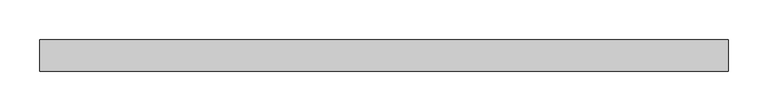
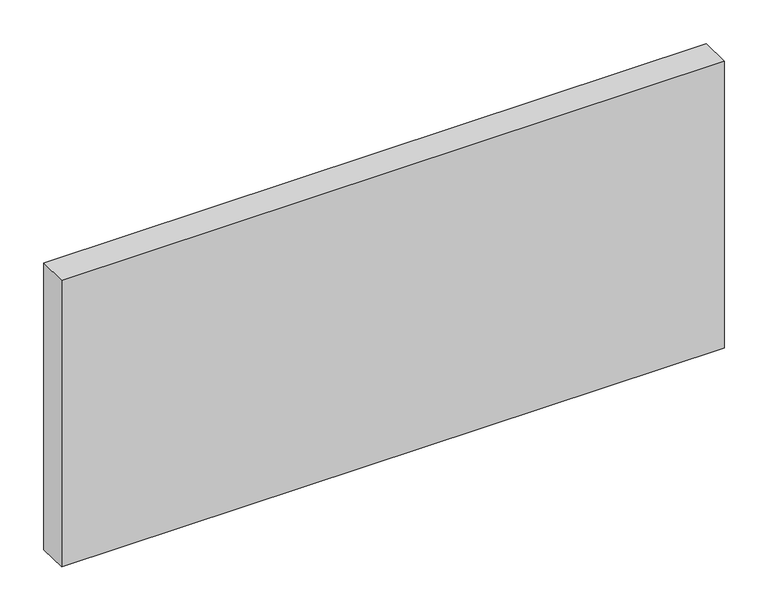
"""IFC4 building model written with IfcOpenShell, lengths in millimetres: plate geometry, Panneau système vide : Epaiss. 4cm."""

import ifcopenshell
import ifcopenshell.guid

model = None  # the IFC model being written
_history = None  # IfcOwnerHistory: only IFC2X3 demands one
_inside = {}  # id of a spatial element -> (the spatial element, [elements in it])
_under = {}  # id of a project, library or spatial element -> (it, [spatial elements below it])
_declared = {}  # id of a project -> (the project, [libraries it declares])
_typed = {}  # id of a type object -> (the type object, [elements of that type])
_made_of = {}  # id of a material, layer set ... -> (it, [elements and type objects made of it])


def new_model(schema):
    """Start an empty IFC model of exactly this schema.

    Asked for "IFC4X3", IfcOpenShell would pick the latest addendum, in which some entities
    have other attributes; the version numbers below select the first issue.
    IFC2X3 requires an IfcOwnerHistory on every rooted entity: one is made here for all.
    """
    global model, _history
    if schema == "IFC4X3":
        model = ifcopenshell.file(schema_version=(4, 3, 0, 0))
    else:
        model = ifcopenshell.file(schema=schema)
    _inside.clear()
    _under.clear()
    _declared.clear()
    _typed.clear()
    _made_of.clear()
    _history = None
    if model.schema == "IFC2X3":
        org = make("IfcOrganization", Name="unknown")
        user = make(
            "IfcPersonAndOrganization",
            ThePerson=make("IfcPerson", FamilyName="unknown"),
            TheOrganization=org,
        )
        app = make(
            "IfcApplication",
            ApplicationDeveloper=org,
            Version="unknown",
            ApplicationFullName="unknown",
            ApplicationIdentifier="unknown",
        )
        _history = make(
            "IfcOwnerHistory",
            OwningUser=user,
            OwningApplication=app,
            ChangeAction="ADDED",
            CreationDate=0,
        )
    return model


def make(cls, **values):
    """One entity of the class cls with the attributes given. An attribute that is None is left unset."""
    return model.create_entity(
        cls, **{name: value for name, value in values.items() if value is not None}
    )


def rooted(cls, **values):
    """An entity with a GlobalId (a new one), such as an element, a storey or a relation."""
    return make(cls, GlobalId=ifcopenshell.guid.new(), OwnerHistory=_history, **values)


def si_unit(unit_type, name, prefix=None):
    """IfcSIUnit, for example si_unit("LENGTHUNIT", "METRE", prefix="MILLI")."""
    return make("IfcSIUnit", UnitType=unit_type, Prefix=prefix, Name=name)


def assignment(units):
    """IfcUnitAssignment: the units of a project."""
    return None if units is None else make("IfcUnitAssignment", Units=units)


def point(xyz):
    """IfcCartesianPoint."""
    return None if xyz is None else make("IfcCartesianPoint", Coordinates=xyz)


def direction(xyz):
    """IfcDirection."""
    return None if xyz is None else make("IfcDirection", DirectionRatios=xyz)


def frame(location, z_axis=None, x_axis=None):
    """IfcAxis2Placement3D, a coordinate frame: its origin and axes. An axis left out is left unset."""
    return make(
        "IfcAxis2Placement3D",
        Location=point(location),
        Axis=direction(z_axis),
        RefDirection=direction(x_axis),
    )


def origin():
    """The frame at (0, 0, 0) with its axes left unset."""
    return frame((0.0, 0.0, 0.0))


def origin_with_axes():
    """The frame at (0, 0, 0) with the z axis (0, 0, 1) and the x axis (1, 0, 0) written out."""
    return frame((0.0, 0.0, 0.0), z_axis=(0.0, 0.0, 1.0), x_axis=(1.0, 0.0, 0.0))


def place(relative_to, where):
    """IfcLocalPlacement: puts the frame where relative to a parent placement (None: the world)."""
    return make(
        "IfcLocalPlacement", PlacementRelTo=relative_to, RelativePlacement=where
    )


def context(
    kind, dimensions, precision=None, world=None, true_north=None, identifier=None
):
    """IfcGeometricRepresentationContext, for example the 3D "Model" context."""
    return make(
        "IfcGeometricRepresentationContext",
        ContextIdentifier=identifier,
        ContextType=kind,
        CoordinateSpaceDimension=dimensions,
        Precision=precision,
        WorldCoordinateSystem=world,
        TrueNorth=true_north,
    )


def project(units=None, contexts=None):
    """IfcProject with its units and contexts."""
    return rooted(
        "IfcProject",
        Name="project",
        RepresentationContexts=contexts,
        UnitsInContext=assignment(units),
    )


def spatial(cls, under=None, at=None, **own):
    """A site, building, storey or space (cls), placed at a placement, below another one or the project."""
    s = rooted(cls, ObjectPlacement=at, **own)
    if under is not None:
        _under.setdefault(under.id(), (under, []))[1].append(s)
    return s


def polyline(points):
    """IfcPolyline through the points."""
    return make("IfcPolyline", Points=[point(p) for p in points])


def outline(outer, holes=None, kind="AREA"):
    """IfcArbitraryClosedProfileDef: a profile drawn as a closed curve; with holes, ...WithVoids."""
    if holes is None:
        return make("IfcArbitraryClosedProfileDef", ProfileType=kind, OuterCurve=outer)
    return make(
        "IfcArbitraryProfileDefWithVoids",
        ProfileType=kind,
        OuterCurve=outer,
        InnerCurves=holes,
    )


def extrude(swept, where, along, depth):
    """IfcExtrudedAreaSolid: the profile swept, set in the frame where, extruded along a direction by depth."""
    return make(
        "IfcExtrudedAreaSolid",
        SweptArea=swept,
        Position=where,
        ExtrudedDirection=direction(along),
        Depth=depth,
    )


def shape(context_of_items, identifier, shape_type, items):
    """IfcShapeRepresentation: the items that make up one representation, for example the "Body"."""
    return make(
        "IfcShapeRepresentation",
        ContextOfItems=context_of_items,
        RepresentationIdentifier=identifier,
        RepresentationType=shape_type,
        Items=items,
    )


def source(mapping_origin, context_of_items, identifier, shape_type, items):
    """IfcRepresentationMap: a shape defined once, which mapped items show again and again."""
    return make(
        "IfcRepresentationMap",
        MappingOrigin=mapping_origin,
        MappedRepresentation=shape(context_of_items, identifier, shape_type, items),
    )


def transform(
    local_origin,
    x_axis=None,
    y_axis=None,
    z_axis=None,
    scale=None,
    scale2=None,
    scale3=None,
    uniform=True,
):
    """IfcCartesianTransformationOperator3D, or its non-uniform kind. x_axis, y_axis, z_axis: its Axis1, 2, 3."""
    if uniform:
        return make(
            "IfcCartesianTransformationOperator3D",
            Axis1=direction(x_axis),
            Axis2=direction(y_axis),
            LocalOrigin=point(local_origin),
            Scale=scale,
            Axis3=direction(z_axis),
        )
    return make(
        "IfcCartesianTransformationOperator3DnonUniform",
        Axis1=direction(x_axis),
        Axis2=direction(y_axis),
        LocalOrigin=point(local_origin),
        Scale=scale,
        Axis3=direction(z_axis),
        Scale2=scale2,
        Scale3=scale3,
    )


def mapped(mapping_source, mapping_target):
    """IfcMappedItem: shows the shape of a source again, moved by a transform."""
    return make(
        "IfcMappedItem", MappingSource=mapping_source, MappingTarget=mapping_target
    )


def made_of(thing, what):
    """Note that an element or type object is made of a material, layer set ...; save() writes the relation."""
    if what is not None:
        _made_of.setdefault(what.id(), (what, []))[1].append(thing)
    return thing


def element(
    cls,
    number,
    at=None,
    inside=None,
    cuts=None,
    type_object=None,
    material=None,
    context=None,
    identifier="Body",
    shape_type=None,
    held_by="IfcProductDefinitionShape",
    body=None,
    shapes=None,
    **own,
):
    """One element of the class cls, such as IfcWall. Its Tag is "e" and its number.

    at: its placement. inside: the storey or other place that contains it. cuts: it is an
    opening in that element (IfcRelVoidsElement). A single representation is given by context,
    identifier, shape_type and body (its items); several are given by shapes. held_by: the class
    of the entity that holds the representations. save() writes the other relations.
    """
    e = rooted(cls, Tag="e%d" % number, ObjectPlacement=at, **own)
    if body is not None:
        shapes = [shape(context, identifier, shape_type, body)]
    if shapes is not None:
        e.Representation = make(held_by, Representations=shapes)
    if inside is not None:
        _inside.setdefault(inside.id(), (inside, []))[1].append(e)
    if cuts is not None:
        rooted(
            "IfcRelVoidsElement", RelatingBuildingElement=cuts, RelatedOpeningElement=e
        )
    if type_object is not None:
        _typed.setdefault(type_object.id(), (type_object, []))[1].append(e)
    return made_of(e, material)


def aggregate(whole, parts):
    """IfcRelAggregates: a whole, such as a stair, and the parts it consists of."""
    return rooted("IfcRelAggregates", RelatingObject=whole, RelatedObjects=parts)


def save(model, path):
    """Write the relations noted so far, then the file.

    IfcRelAggregates (storeys below a building ...), IfcRelContainedInSpatialStructure (elements
    in a storey), IfcRelDefinesByType, IfcRelAssociatesMaterial and IfcRelDeclares: one each for
    every whole, place, type object, material and project.
    """
    for whole, parts in _under.values():
        aggregate(whole, parts)
    for where, things in _inside.values():
        rooted(
            "IfcRelContainedInSpatialStructure",
            RelatedElements=things,
            RelatingStructure=where,
        )
    for kind, things in _typed.values():
        rooted("IfcRelDefinesByType", RelatedObjects=things, RelatingType=kind)
    for what, things in _made_of.values():
        rooted("IfcRelAssociatesMaterial", RelatedObjects=things, RelatingMaterial=what)
    for by, libraries in _declared.values():
        rooted("IfcRelDeclares", RelatingContext=by, RelatedDefinitions=libraries)
    model.write(path)


def plate_1e368354(model_context):
    return source(origin(), model_context, "Body", "SweptSolid", [
        extrude(outline(polyline([(435.0, -20.0), (-435.0, -20.0), (-435.0, 20.0), (435.0, 20.0), (435.0, -20.0)])), origin_with_axes(), (0.0, 0.0, 1.0), 398.0),
    ])


if __name__ == "__main__":
    model = new_model("IFC4")
    model_context = context("Model", 3, world=origin())
    ifc_project = project(units=[si_unit("LENGTHUNIT", "METRE", prefix="MILLI")], contexts=[model_context])
    site = spatial("IfcSite", under=ifc_project)
    building = spatial("IfcBuilding", under=site)
    placement = place(None, origin())
    plate_shape = plate_1e368354(model_context)
    element("IfcPlate", 1, ObjectType="Panneau système vide : Epaiss. 4cm", at=placement, inside=building, context=model_context, shape_type="MappedRepresentation", body=[
        mapped(plate_shape, transform((0.0, 0.0, 0.0), x_axis=(1.0, 0.0, 0.0), y_axis=(0.0, 1.0, 0.0), z_axis=(0.0, 0.0, 1.0))),
    ])
    save(model, "model.ifc")
